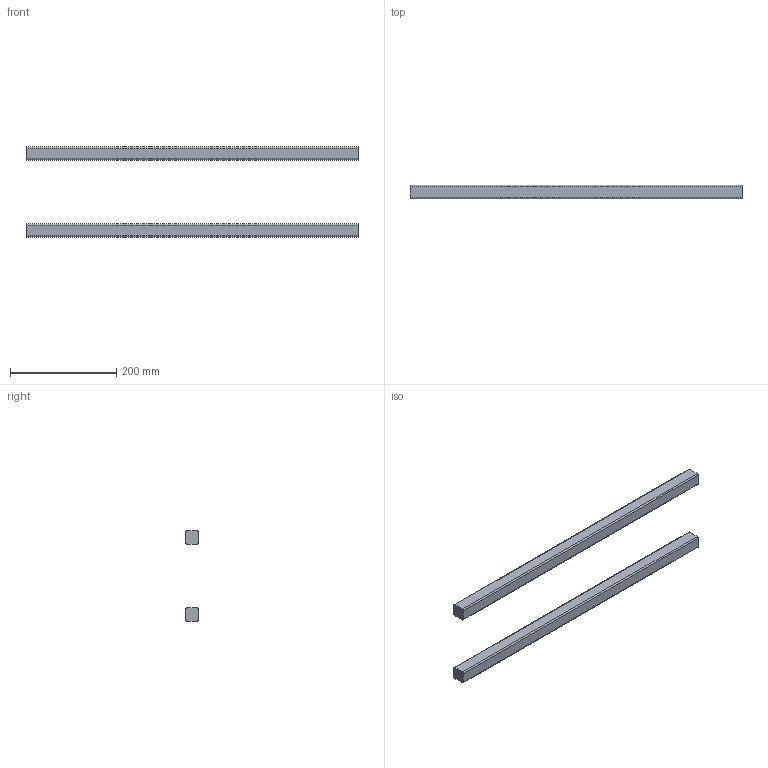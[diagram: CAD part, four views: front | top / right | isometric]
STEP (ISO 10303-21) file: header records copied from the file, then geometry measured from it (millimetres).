
FILE_DESCRIPTION (( 'STEP AP214' ), '1' );
FILE_NAME ('705418.STEP', '2025-10-01T10:53:24', ( '' ), ( '' ), 'SwSTEP 2.0', 'SolidWorks 2025', '' );
FILE_SCHEMA (( 'AUTOMOTIVE_DESIGN' ));
Length unit declared in the file: millimetre
Products named in the file (1): 705418
Bounding box: 625 x 25 x 170 mm (x, y, z)
Volume: 774543.7 mm3; surface area: 122113.5 mm2
Topology: 2 solids, 2 shells, 20 faces, 48 edges, 32 vertices
Faces by surface type: plane 12, cylinder 8
Entity records: 620 total; most frequent: DIRECTION 106, CARTESIAN_POINT 101, ORIENTED_EDGE 96, EDGE_CURVE 48, AXIS2_PLACEMENT_3D 37, VECTOR 32, LINE 32, VERTEX_POINT 32
